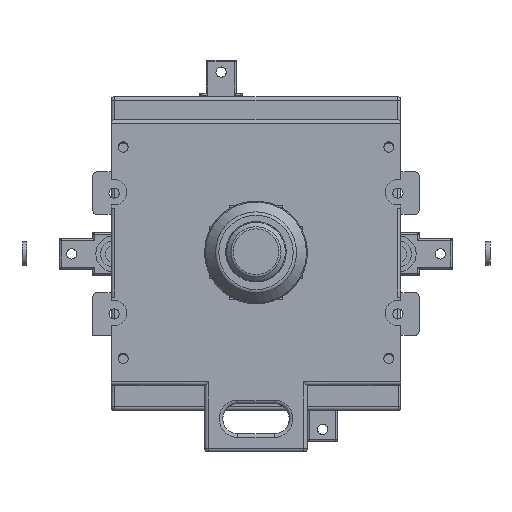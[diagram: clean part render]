
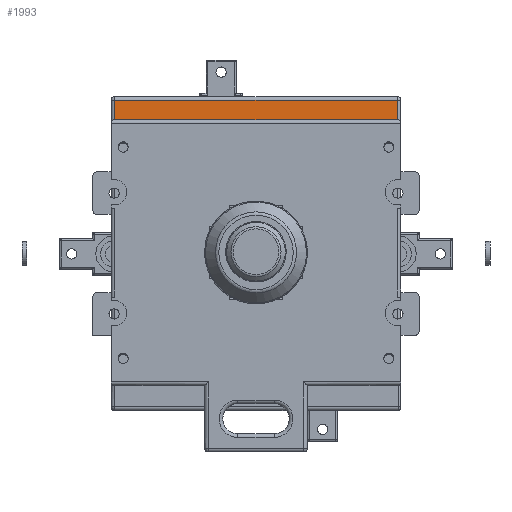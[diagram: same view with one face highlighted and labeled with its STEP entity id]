
A CAD part, top view. The second image highlights one B-rep face of the part: STEP entity #1993.
In plain terms, the highlighted planar face has unit normal (0, 0, 1).
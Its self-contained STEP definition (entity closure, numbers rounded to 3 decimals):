
#623 = VERTEX_POINT('',#624);
#624 = CARTESIAN_POINT('',(40.,42.2,85.));
#631 = EDGE_CURVE('',#632,#623,#634,.T.);
#632 = VERTEX_POINT('',#633);
#633 = CARTESIAN_POINT('',(40.,41.,85.));
#634 = LINE('',#635,#636);
#635 = CARTESIAN_POINT('',(40.,-46.5,85.));
#636 = VECTOR('',#637,1.);
#637 = DIRECTION('',(0.,1.,0.));
#639 = EDGE_CURVE('',#632,#640,#642,.T.);
#640 = VERTEX_POINT('',#641);
#641 = CARTESIAN_POINT('',(40.,39.8,85.));
#642 = LINE('',#643,#644);
#643 = CARTESIAN_POINT('',(40.,-46.5,85.));
#644 = VECTOR('',#645,1.);
#645 = DIRECTION('',(0.,-1.,0.));
#1878 = EDGE_CURVE('',#623,#1879,#1881,.T.);
#1879 = VERTEX_POINT('',#1880);
#1880 = CARTESIAN_POINT('',(-40.,42.2,85.));
#1881 = LINE('',#1882,#1883);
#1882 = CARTESIAN_POINT('',(40.,42.2,85.));
#1883 = VECTOR('',#1884,1.);
#1884 = DIRECTION('',(-1.,0.,0.));
#1993 = ADVANCED_FACE('',(#1994),#2071,.T.);
#1994 = FACE_BOUND('',#1995,.T.);
#1995 = EDGE_LOOP('',(#1996,#2006,#2014,#2022,#2030,#2038,#2047,#2055,
    #2061,#2062,#2063,#2064));
#1996 = ORIENTED_EDGE('',*,*,#1997,.T.);
#1997 = EDGE_CURVE('',#1998,#2000,#2002,.T.);
#1998 = VERTEX_POINT('',#1999);
#1999 = CARTESIAN_POINT('',(41.2,41.,85.));
#2000 = VERTEX_POINT('',#2001);
#2001 = CARTESIAN_POINT('',(46.8,41.,85.));
#2002 = LINE('',#2003,#2004);
#2003 = CARTESIAN_POINT('',(40.,41.,85.));
#2004 = VECTOR('',#2005,1.);
#2005 = DIRECTION('',(1.,0.,0.));
#2006 = ORIENTED_EDGE('',*,*,#2007,.T.);
#2007 = EDGE_CURVE('',#2000,#2008,#2010,.T.);
#2008 = VERTEX_POINT('',#2009);
#2009 = CARTESIAN_POINT('',(46.8,50.8,85.));
#2010 = LINE('',#2011,#2012);
#2011 = CARTESIAN_POINT('',(46.8,41.,85.));
#2012 = VECTOR('',#2013,1.);
#2013 = DIRECTION('',(0.,1.,0.));
#2014 = ORIENTED_EDGE('',*,*,#2015,.F.);
#2015 = EDGE_CURVE('',#2016,#2008,#2018,.T.);
#2016 = VERTEX_POINT('',#2017);
#2017 = CARTESIAN_POINT('',(-46.8,50.8,85.));
#2018 = LINE('',#2019,#2020);
#2019 = CARTESIAN_POINT('',(-48.,50.8,85.));
#2020 = VECTOR('',#2021,1.);
#2021 = DIRECTION('',(1.,0.,0.));
#2022 = ORIENTED_EDGE('',*,*,#2023,.F.);
#2023 = EDGE_CURVE('',#2024,#2016,#2026,.T.);
#2024 = VERTEX_POINT('',#2025);
#2025 = CARTESIAN_POINT('',(-46.8,41.,85.));
#2026 = LINE('',#2027,#2028);
#2027 = CARTESIAN_POINT('',(-46.8,41.,85.));
#2028 = VECTOR('',#2029,1.);
#2029 = DIRECTION('',(0.,1.,0.));
#2030 = ORIENTED_EDGE('',*,*,#2031,.T.);
#2031 = EDGE_CURVE('',#2024,#2032,#2034,.T.);
#2032 = VERTEX_POINT('',#2033);
#2033 = CARTESIAN_POINT('',(-41.2,41.,85.));
#2034 = LINE('',#2035,#2036);
#2035 = CARTESIAN_POINT('',(-48.,41.,85.));
#2036 = VECTOR('',#2037,1.);
#2037 = DIRECTION('',(1.,0.,0.));
#2038 = ORIENTED_EDGE('',*,*,#2039,.F.);
#2039 = EDGE_CURVE('',#2040,#2032,#2042,.T.);
#2040 = VERTEX_POINT('',#2041);
#2041 = CARTESIAN_POINT('',(-40.,39.8,85.));
#2042 = CIRCLE('',#2043,1.2);
#2043 = AXIS2_PLACEMENT_3D('',#2044,#2045,#2046);
#2044 = CARTESIAN_POINT('',(-41.2,39.8,85.));
#2045 = DIRECTION('',(0.,0.,1.));
#2046 = DIRECTION('',(0.,-1.,0.));
#2047 = ORIENTED_EDGE('',*,*,#2048,.F.);
#2048 = EDGE_CURVE('',#2049,#2040,#2051,.T.);
#2049 = VERTEX_POINT('',#2050);
#2050 = CARTESIAN_POINT('',(-40.,41.,85.));
#2051 = LINE('',#2052,#2053);
#2052 = CARTESIAN_POINT('',(-40.,-46.5,85.));
#2053 = VECTOR('',#2054,1.);
#2054 = DIRECTION('',(0.,-1.,0.));
#2055 = ORIENTED_EDGE('',*,*,#2056,.T.);
#2056 = EDGE_CURVE('',#2049,#1879,#2057,.T.);
#2057 = LINE('',#2058,#2059);
#2058 = CARTESIAN_POINT('',(-40.,-46.5,85.));
#2059 = VECTOR('',#2060,1.);
#2060 = DIRECTION('',(0.,1.,0.));
#2061 = ORIENTED_EDGE('',*,*,#1878,.F.);
#2062 = ORIENTED_EDGE('',*,*,#631,.F.);
#2063 = ORIENTED_EDGE('',*,*,#639,.T.);
#2064 = ORIENTED_EDGE('',*,*,#2065,.F.);
#2065 = EDGE_CURVE('',#1998,#640,#2066,.T.);
#2066 = CIRCLE('',#2067,1.2);
#2067 = AXIS2_PLACEMENT_3D('',#2068,#2069,#2070);
#2068 = CARTESIAN_POINT('',(41.2,39.8,85.));
#2069 = DIRECTION('',(0.,0.,1.));
#2070 = DIRECTION('',(0.,-1.,0.));
#2071 = PLANE('',#2072);
#2072 = AXIS2_PLACEMENT_3D('',#2073,#2074,#2075);
#2073 = CARTESIAN_POINT('',(-48.,-52.,85.));
#2074 = DIRECTION('',(0.,0.,1.));
#2075 = DIRECTION('',(1.,0.,-0.));
